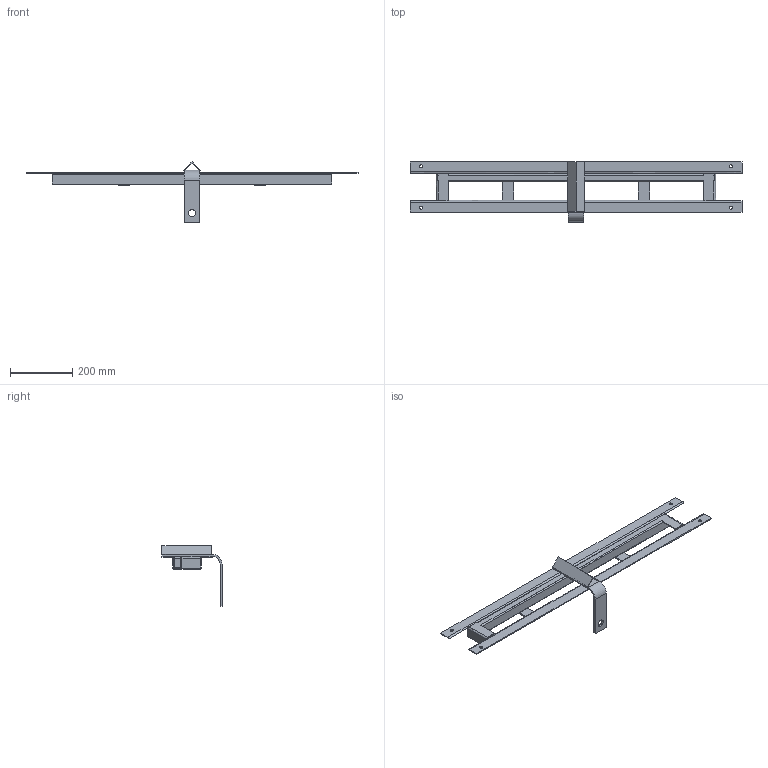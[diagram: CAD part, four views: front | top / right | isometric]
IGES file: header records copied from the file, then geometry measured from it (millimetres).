
Start section:  PTC IGES file: hitch.igs
Global section: file name: hitch.igs; native system: Pro/ENGINEER by Parametric Technology Corporation; preprocessor: 2004090; author: beckdona; organization: Unknown; date: 040802.130838; units: inch
Bounding box: 1067 x 192.9 x 193.27 mm (x, y, z)
Surface area: 527026.5 mm2 (no closed solid volume)
Topology: 0 solids, 0 shells, 113 faces, 690 edges, 690 vertices
Faces by surface type: bspline 79, revolution 34
